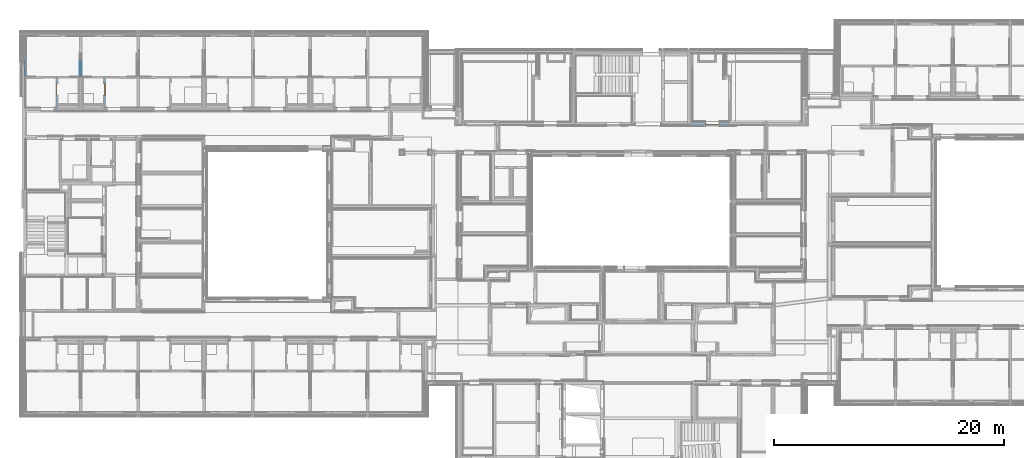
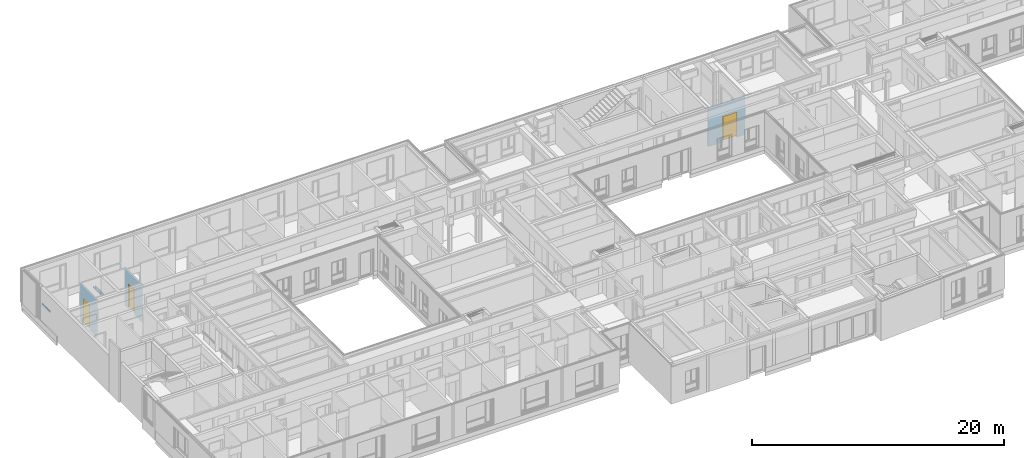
# One storey, part 109 of 207: 3 doors, 3 walls, 3 openings, plus 3 elements that do not belong to this part.
"""IFC4 building model written with IfcOpenShell, lengths in metres."""

from ifc_helpers import new_model, entity, si_unit, converted_unit, derived_unit, frame, frame_2d, origin, origin_with_axes, place, context, subcontext, project, spatial, polyline, rectangle, outline, extrude, clip, bounded_halfspace, faceted_brep, source, transform, mapped, material, type_object, element, fill, save


model = new_model("IFC4")

# Units and contexts
model_context = context("Model", 3, precision=1e-05, world=origin())
body_context = subcontext(model_context, "Body", "Model", "MODEL_VIEW")
ifc_project = project(units=[si_unit("LENGTHUNIT", "METRE"), si_unit("AREAUNIT", "SQUARE_METRE"), si_unit("VOLUMEUNIT", "CUBIC_METRE"), si_unit("MASSUNIT", "GRAM", prefix="KILO"), converted_unit("PLANEANGLEUNIT", "DEGREE", entity("IfcPlaneAngleMeasure", 0.0174532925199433), si_unit("PLANEANGLEUNIT", "RADIAN"), dimensions=[0, 0, 0, 0, 0, 0, 0]), derived_unit("THERMALTRANSMITTANCEUNIT", [(si_unit("POWERUNIT", "WATT"), 1), (si_unit("THERMODYNAMICTEMPERATUREUNIT", "KELVIN"), -1), (si_unit("LENGTHUNIT", "METRE"), -2)]), derived_unit("VOLUMETRICFLOWRATEUNIT", [(si_unit("LENGTHUNIT", "METRE"), 3), (converted_unit("TIMEUNIT", "hour", entity("IfcTimeMeasure", 3600.0), si_unit("TIMEUNIT", "SECOND"), dimensions=[0, 0, 1, 0, 0, 0, 0]), -1), (si_unit("LENGTHUNIT", "METRE"), -1)])], contexts=[model_context])

# Site, building, storey
site_placement = place(None, origin())
site = spatial("IfcSite", under=ifc_project, at=site_placement, Name="Psychiatrie Neubau Wunstorf", CompositionType="ELEMENT")
building_placement = place(site_placement, origin())
building = spatial("IfcBuilding", under=site, at=building_placement, Name="Neubau H2 Stationsgebäude", CompositionType="ELEMENT")
storey_placement = place(building_placement, frame((0.0, 0.0, -0.2)))
storey = spatial("IfcBuildingStorey", under=building, at=storey_placement, Name="H2 Ebene 0", CompositionType="ELEMENT", Elevation=-0.2)

# Wall
wall_1_placement = place(storey_placement, frame((0.218999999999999, 27.1628367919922, 1.625)))
element("IfcWall", 1, at=wall_1_placement, inside=storey, Name="WV 1.1", context=body_context, shape_type="Brep", body=[
    faceted_brep([(0.025, 1.2, 0.0), (0.0, 1.2, 0.0), (0.0, 0.0, 0.0), (0.0250000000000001, 0.0, 0.0), (0.0, 1.2, 0.15), (0.025, 1.2, 0.15), (0.0250000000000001, 0.0, 0.15), (0.0, 0.0, 0.15)], [[[0, 1, 2, 3]], [[4, 5, 6, 7]], [[1, 0, 5, 4]], [[2, 1, 4, 7]], [[3, 2, 7, 6]], [[0, 3, 6, 5]]], orient=[[False], [False], [False], [False], [False], [False]]),
])

# Wall, opening, door
ifc_material_1 = material(Name="WI-LB")
wall_2_placement = place(storey_placement, frame((2.875, 26.9645, 0.0), z_axis=(0.0, 0.0, 1.0), x_axis=(0.0, -1.0, 0.0)))
wall_2 = element("IfcWall", 2, at=wall_2_placement, inside=storey, material=ifc_material_1, context=body_context, shape_type="SweptSolid", body=[
    extrude(rectangle(XDim=2.61499999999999, YDim=0.125, at=frame_2d((1.3075, 0.0625), x_axis=(1.0, 0.0))), origin_with_axes(), (0.0, 0.0, 1.0), 3.6),
])
opening_1_placement = place(wall_2_placement, frame((1.51, 0.125, 0.0), z_axis=(0.0, -1.0, 0.0), x_axis=(0.0, 0.0, 1.0)))
opening_1 = element("IfcOpeningElement", 3, at=opening_1_placement, cuts=wall_2, Name="Türöffnung", ObjectType="Opening", context=body_context, shape_type="SweptSolid", body=[
    extrude(outline(polyline([(2.46, 1.01), (2.46, 0.0), (0.0, 0.0), (0.0, 1.01), (2.46, 1.01)])), origin_with_axes(), (0.0, 0.0, 1.0), 0.125),
])
ifc_material_2 = material(Name="TI-1F-UZ-D-N")
door_type_1 = type_object("IfcDoorType", Name="SMT", OperationType="SINGLE_SWING_RIGHT", ParameterTakesPrecedence=False, PredefinedType="DOOR")
shared_shape_1 = source(origin_with_axes(), body_context, "Body", "Brep", [
    faceted_brep([(1.04999999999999, 0.0125000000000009, 0.0), (1.04999999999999, 0.112500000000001, 0.0), (1.00999999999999, 0.112500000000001, 0.0), (1.00999999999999, 0.0125000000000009, 0.0), (1.04999999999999, 0.112500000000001, 3.6), (1.04999999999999, 0.0125000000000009, 3.6), (1.00999999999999, 0.0125000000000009, 3.6), (1.00999999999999, 0.112500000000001, 3.6)], [[[0, 1, 2, 3]], [[4, 5, 6, 7]], [[1, 0, 5, 4]], [[2, 1, 4, 7]], [[3, 2, 7, 6]], [[0, 3, 6, 5]]], orient=[[False], [False], [False], [False], [False], [False]]),
    faceted_brep([(0.0, 0.0125000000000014, 0.0), (0.0, 0.112500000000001, 0.0), (-0.0400000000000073, 0.112500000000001, 0.0), (-0.0400000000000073, 0.0125000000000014, 0.0), (0.0, 0.112500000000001, 3.6), (0.0, 0.0125000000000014, 3.6), (-0.0400000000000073, 0.0125000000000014, 3.6), (-0.0400000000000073, 0.112500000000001, 3.6)], [[[0, 1, 2, 3]], [[4, 5, 6, 7]], [[1, 0, 5, 4]], [[2, 1, 4, 7]], [[3, 2, 7, 6]], [[0, 3, 6, 5]]], orient=[[False], [False], [False], [False], [False], [False]]),
    faceted_brep([(1.00999999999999, 0.0125000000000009, 2.46), (1.00999999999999, 0.112500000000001, 2.46), (0.0, 0.112500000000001, 2.46), (0.0, 0.0125000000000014, 2.46), (1.00999999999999, 0.112500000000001, 2.5), (1.00999999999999, 0.0125000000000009, 2.5), (0.0, 0.0125000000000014, 2.5), (0.0, 0.112500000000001, 2.5)], [[[0, 1, 2, 3]], [[4, 5, 6, 7]], [[1, 0, 5, 4]], [[2, 1, 4, 7]], [[3, 2, 7, 6]], [[0, 3, 6, 5]]], orient=[[False], [False], [False], [False], [False], [False]]),
])
shared_shape_2 = source(origin_with_axes(), body_context, "Body", "Brep", [
    faceted_brep([(0.0, -0.0149999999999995, 2.46), (0.0399999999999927, -0.0149999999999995, 2.46), (0.0399999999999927, -0.0149999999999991, 0.2), (0.0, -0.0149999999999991, 0.2), (0.0, 0.140000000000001, 0.2), (0.0399999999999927, 0.140000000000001, 0.2), (0.0399999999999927, 0.14, 2.46), (0.0, 0.14, 2.46)], [[[0, 1, 2, 3]], [[4, 5, 6, 7]], [[3, 4, 7, 0]], [[2, 5, 4, 3]], [[1, 6, 5, 2]], [[0, 7, 6, 1]]], orient=[[False], [False], [False], [False], [False], [False]]),
    faceted_brep([(0.0, -0.0149999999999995, 2.475), (0.0, -0.0149999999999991, 0.2), (-0.0150000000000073, -0.0149999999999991, 0.2), (-0.0150000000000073, -0.0149999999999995, 2.475), (0.0, 0.0, 0.2), (0.0, 0.0, 2.475), (-0.0150000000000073, 0.0, 2.475), (-0.0150000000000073, 0.0, 0.2)], [[[0, 1, 2, 3]], [[4, 5, 6, 7]], [[1, 0, 5, 4]], [[2, 1, 4, 7]], [[3, 2, 7, 6]], [[0, 3, 6, 5]]], orient=[[False], [False], [False], [False], [False], [False]]),
    faceted_brep([(0.0, 0.125, 2.475), (0.0, 0.125000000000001, 0.2), (-0.0150000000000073, 0.125000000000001, 0.2), (-0.0150000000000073, 0.125, 2.475), (0.0, 0.140000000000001, 0.2), (0.0, 0.14, 2.475), (-0.0150000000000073, 0.14, 2.475), (-0.0150000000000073, 0.140000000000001, 0.2)], [[[0, 1, 2, 3]], [[4, 5, 6, 7]], [[1, 0, 5, 4]], [[2, 1, 4, 7]], [[3, 2, 7, 6]], [[0, 3, 6, 5]]], orient=[[False], [False], [False], [False], [False], [False]]),
    faceted_brep([(0.969999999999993, -0.0149999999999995, 2.46), (1.00999999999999, -0.0149999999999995, 2.46), (1.00999999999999, -0.0149999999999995, 0.2), (0.969999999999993, -0.0149999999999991, 0.2), (0.969999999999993, 0.14, 0.2), (1.00999999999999, 0.14, 0.2), (1.00999999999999, 0.14, 2.46), (0.969999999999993, 0.14, 2.46)], [[[0, 1, 2, 3]], [[4, 5, 6, 7]], [[3, 4, 7, 0]], [[2, 5, 4, 3]], [[1, 6, 5, 2]], [[0, 7, 6, 1]]], orient=[[False], [False], [False], [False], [False], [False]]),
    faceted_brep([(1.00999999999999, -0.0149999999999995, 2.475), (1.02499999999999, -0.0149999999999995, 2.475), (1.02499999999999, -0.0149999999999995, 0.2), (1.00999999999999, -0.0149999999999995, 0.2), (1.00999999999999, 0.0, 0.2), (1.02499999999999, 0.0, 0.2), (1.02499999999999, 0.0, 2.475), (1.00999999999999, 0.0, 2.475)], [[[0, 1, 2, 3]], [[4, 5, 6, 7]], [[3, 4, 7, 0]], [[2, 5, 4, 3]], [[1, 6, 5, 2]], [[0, 7, 6, 1]]], orient=[[False], [False], [False], [False], [False], [False]]),
    faceted_brep([(1.00999999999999, 0.125, 2.475), (1.02499999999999, 0.125, 2.475), (1.02499999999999, 0.125, 0.2), (1.00999999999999, 0.125, 0.2), (1.00999999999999, 0.14, 0.2), (1.02499999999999, 0.14, 0.2), (1.02499999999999, 0.14, 2.475), (1.00999999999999, 0.14, 2.475)], [[[0, 1, 2, 3]], [[4, 5, 6, 7]], [[3, 4, 7, 0]], [[2, 5, 4, 3]], [[1, 6, 5, 2]], [[0, 7, 6, 1]]], orient=[[False], [False], [False], [False], [False], [False]]),
    faceted_brep([(0.0399999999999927, -0.0149999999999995, 2.46), (0.969999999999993, -0.0149999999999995, 2.46), (0.969999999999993, -0.0149999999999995, 2.42), (0.0399999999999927, -0.0149999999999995, 2.42), (0.0399999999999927, 0.14, 2.42), (0.969999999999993, 0.14, 2.42), (0.969999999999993, 0.14, 2.46), (0.0399999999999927, 0.14, 2.46)], [[[0, 1, 2, 3]], [[4, 5, 6, 7]], [[3, 4, 7, 0]], [[2, 5, 4, 3]], [[1, 6, 5, 2]], [[0, 7, 6, 1]]], orient=[[False], [False], [False], [False], [False], [False]]),
    faceted_brep([(0.0, -0.0149999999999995, 2.475), (1.00999999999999, -0.0149999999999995, 2.475), (1.00999999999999, -0.0149999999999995, 2.46), (0.0, -0.0149999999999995, 2.46), (0.0, 0.0, 2.46), (1.00999999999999, 0.0, 2.46), (1.00999999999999, 0.0, 2.475), (0.0, 0.0, 2.475)], [[[0, 1, 2, 3]], [[4, 5, 6, 7]], [[3, 4, 7, 0]], [[2, 5, 4, 3]], [[1, 6, 5, 2]], [[0, 7, 6, 1]]], orient=[[False], [False], [False], [False], [False], [False]]),
    faceted_brep([(0.0, 0.125, 2.475), (1.00999999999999, 0.125, 2.475), (1.00999999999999, 0.125, 2.46), (0.0, 0.125, 2.46), (0.0, 0.14, 2.46), (1.00999999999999, 0.14, 2.46), (1.00999999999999, 0.14, 2.475), (0.0, 0.14, 2.475)], [[[0, 1, 2, 3]], [[4, 5, 6, 7]], [[3, 4, 7, 0]], [[2, 5, 4, 3]], [[1, 6, 5, 2]], [[0, 7, 6, 1]]], orient=[[False], [False], [False], [False], [False], [False]]),
    faceted_brep([(0.0249999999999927, 0.0910000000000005, 2.435), (0.984999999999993, 0.0910000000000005, 2.435), (0.984999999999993, 0.0910000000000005, 0.2), (0.0249999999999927, 0.0910000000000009, 0.2), (0.0249999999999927, 0.141000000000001, 0.2), (0.984999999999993, 0.141, 0.2), (0.984999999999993, 0.141, 2.435), (0.0249999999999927, 0.141, 2.435)], [[[0, 1, 2, 3]], [[4, 5, 6, 7]], [[3, 4, 7, 0]], [[2, 5, 4, 3]], [[1, 6, 5, 2]], [[0, 7, 6, 1]]], orient=[[False], [False], [False], [False], [False], [False]]),
])
door_1_placement = place(opening_1_placement, frame((0.0, 0.0, 0.0), z_axis=(1.0, 0.0, 0.0), x_axis=(0.0, 1.0, 0.0)))
door_1 = element("IfcDoor", 4, at=door_1_placement, inside=storey, type_object=door_type_1, material=ifc_material_2, Name="SMT", OverallHeight=2.46, OverallWidth=1.01, context=body_context, shape_type="MappedRepresentation", body=[
    mapped(shared_shape_1, transform((0.0, 0.0, 0.0), x_axis=(1.0, 0.0, 0.0), y_axis=(0.0, 1.0, 0.0), z_axis=(0.0, 0.0, 1.0), scale=1.0)),
    mapped(shared_shape_2, transform((0.0, 0.0, 0.0), x_axis=(1.0, 0.0, 0.0), y_axis=(0.0, 1.0, 0.0), z_axis=(0.0, 0.0, 1.0), scale=1.0)),
])
fill(opening_1, door_1)

ifc_material_3 = material(Name="WI-LB")
wall_3_placement = place(storey_placement, frame((7.0, 27.0895, 0.0), z_axis=(0.0, 0.0, 1.0), x_axis=(0.0, -1.0, 0.0)))
wall_3 = element("IfcWall", 5, at=wall_3_placement, inside=storey, material=ifc_material_3, context=body_context, shape_type="SweptSolid", body=[
    extrude(rectangle(XDim=2.73999999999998, YDim=0.125, at=frame_2d((1.36999999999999, 0.0625), x_axis=(1.0, 0.0))), origin_with_axes(), (0.0, 0.0, 1.0), 3.6),
])
opening_2_placement = place(wall_3_placement, frame((0.625, 0.0, 0.0), z_axis=(0.0, 1.0, 0.0), x_axis=(0.0, 0.0, 1.0)))
opening_2 = element("IfcOpeningElement", 6, at=opening_2_placement, cuts=wall_3, Name="Türöffnung", ObjectType="Opening", context=body_context, shape_type="SweptSolid", body=[
    extrude(outline(polyline([(2.46, 1.01), (2.46, 0.0), (0.0, 0.0), (0.0, 1.01), (2.46, 1.01)])), origin_with_axes(), (0.0, 0.0, 1.0), 0.125),
])
ifc_material_4 = material(Name="TI-1F-UZ-D-N")
door_type_2 = type_object("IfcDoorType", Name="SMT", OperationType="SINGLE_SWING_RIGHT", ParameterTakesPrecedence=False, PredefinedType="DOOR")
shared_shape_3 = source(origin_with_axes(), body_context, "Body", "Brep", [
    faceted_brep([(1.05000000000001, 0.0124999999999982, 0.0), (1.05000000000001, 0.112499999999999, 0.0), (1.01000000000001, 0.112499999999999, 0.0), (1.01000000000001, 0.0124999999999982, 0.0), (1.05000000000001, 0.112499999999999, 3.6), (1.05000000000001, 0.0124999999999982, 3.6), (1.01000000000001, 0.0124999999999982, 3.6), (1.01000000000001, 0.112499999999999, 3.6)], [[[0, 1, 2, 3]], [[4, 5, 6, 7]], [[1, 0, 5, 4]], [[2, 1, 4, 7]], [[3, 2, 7, 6]], [[0, 3, 6, 5]]], orient=[[False], [False], [False], [False], [False], [False]]),
    faceted_brep([(0.0, 0.0124999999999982, 0.0), (0.0, 0.112499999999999, 0.0), (-0.0399999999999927, 0.112499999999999, 0.0), (-0.0399999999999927, 0.0124999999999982, 0.0), (0.0, 0.112499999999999, 3.6), (0.0, 0.0124999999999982, 3.6), (-0.0399999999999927, 0.0124999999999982, 3.6), (-0.0399999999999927, 0.112499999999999, 3.6)], [[[0, 1, 2, 3]], [[4, 5, 6, 7]], [[1, 0, 5, 4]], [[2, 1, 4, 7]], [[3, 2, 7, 6]], [[0, 3, 6, 5]]], orient=[[False], [False], [False], [False], [False], [False]]),
    faceted_brep([(1.01000000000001, 0.0124999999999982, 2.46), (1.01000000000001, 0.112499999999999, 2.46), (0.0, 0.112499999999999, 2.46), (0.0, 0.0124999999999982, 2.46), (1.01000000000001, 0.112499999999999, 2.5), (1.01000000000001, 0.0124999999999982, 2.5), (0.0, 0.0124999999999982, 2.5), (0.0, 0.112499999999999, 2.5)], [[[0, 1, 2, 3]], [[4, 5, 6, 7]], [[1, 0, 5, 4]], [[2, 1, 4, 7]], [[3, 2, 7, 6]], [[0, 3, 6, 5]]], orient=[[False], [False], [False], [False], [False], [False]]),
])
shared_shape_4 = source(origin_with_axes(), body_context, "Body", "Brep", [
    faceted_brep([(1.01000000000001, -0.0150000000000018, 2.46), (1.01000000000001, -0.0150000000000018, 0.2), (0.970000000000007, -0.0150000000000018, 0.2), (0.970000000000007, -0.0150000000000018, 2.46), (1.01000000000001, 0.139999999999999, 0.2), (1.01000000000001, 0.139999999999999, 2.46), (0.970000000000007, 0.139999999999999, 2.46), (0.970000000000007, 0.139999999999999, 0.2)], [[[0, 1, 2, 3]], [[4, 5, 6, 7]], [[1, 0, 5, 4]], [[2, 1, 4, 7]], [[3, 2, 7, 6]], [[0, 3, 6, 5]]], orient=[[False], [False], [False], [False], [False], [False]]),
    faceted_brep([(1.01000000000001, -0.0150000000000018, 2.475), (1.02500000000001, -0.0150000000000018, 2.475), (1.02500000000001, -0.0150000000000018, 0.2), (1.01000000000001, -0.0150000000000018, 0.2), (1.01000000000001, 0.0, 0.2), (1.02500000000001, 0.0, 0.2), (1.02500000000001, 0.0, 2.475), (1.01000000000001, 0.0, 2.475)], [[[0, 1, 2, 3]], [[4, 5, 6, 7]], [[3, 4, 7, 0]], [[2, 5, 4, 3]], [[1, 6, 5, 2]], [[0, 7, 6, 1]]], orient=[[False], [False], [False], [False], [False], [False]]),
    faceted_brep([(1.01000000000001, 0.124999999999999, 2.475), (1.02500000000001, 0.124999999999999, 2.475), (1.02500000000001, 0.124999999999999, 0.2), (1.01000000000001, 0.124999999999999, 0.2), (1.01000000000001, 0.139999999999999, 0.2), (1.02500000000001, 0.139999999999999, 0.2), (1.02500000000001, 0.139999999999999, 2.475), (1.01000000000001, 0.139999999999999, 2.475)], [[[0, 1, 2, 3]], [[4, 5, 6, 7]], [[3, 4, 7, 0]], [[2, 5, 4, 3]], [[1, 6, 5, 2]], [[0, 7, 6, 1]]], orient=[[False], [False], [False], [False], [False], [False]]),
    faceted_brep([(0.0400000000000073, -0.0150000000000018, 2.46), (0.0400000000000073, -0.0150000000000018, 0.2), (0.0, -0.0150000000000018, 0.2), (0.0, -0.0150000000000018, 2.46), (0.0400000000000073, 0.139999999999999, 0.2), (0.0400000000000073, 0.139999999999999, 2.46), (0.0, 0.139999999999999, 2.46), (0.0, 0.139999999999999, 0.2)], [[[0, 1, 2, 3]], [[4, 5, 6, 7]], [[1, 0, 5, 4]], [[2, 1, 4, 7]], [[3, 2, 7, 6]], [[0, 3, 6, 5]]], orient=[[False], [False], [False], [False], [False], [False]]),
    faceted_brep([(0.0, -0.0150000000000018, 2.475), (0.0, -0.0150000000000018, 0.2), (-0.0149999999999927, -0.0150000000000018, 0.2), (-0.0149999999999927, -0.0150000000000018, 2.475), (0.0, 0.0, 0.2), (0.0, 0.0, 2.475), (-0.0149999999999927, 0.0, 2.475), (-0.0149999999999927, 0.0, 0.2)], [[[0, 1, 2, 3]], [[4, 5, 6, 7]], [[1, 0, 5, 4]], [[2, 1, 4, 7]], [[3, 2, 7, 6]], [[0, 3, 6, 5]]], orient=[[False], [False], [False], [False], [False], [False]]),
    faceted_brep([(0.0, 0.124999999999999, 2.475), (0.0, 0.124999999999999, 0.2), (-0.0149999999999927, 0.124999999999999, 0.2), (-0.0149999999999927, 0.124999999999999, 2.475), (0.0, 0.139999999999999, 0.2), (0.0, 0.139999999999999, 2.475), (-0.0149999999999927, 0.139999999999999, 2.475), (-0.0149999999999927, 0.139999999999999, 0.2)], [[[0, 1, 2, 3]], [[4, 5, 6, 7]], [[1, 0, 5, 4]], [[2, 1, 4, 7]], [[3, 2, 7, 6]], [[0, 3, 6, 5]]], orient=[[False], [False], [False], [False], [False], [False]]),
    faceted_brep([(0.970000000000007, -0.0150000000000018, 2.46), (0.970000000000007, -0.0150000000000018, 2.42), (0.0400000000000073, -0.0150000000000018, 2.42), (0.0400000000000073, -0.0150000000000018, 2.46), (0.970000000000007, 0.139999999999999, 2.42), (0.970000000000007, 0.139999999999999, 2.46), (0.0400000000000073, 0.139999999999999, 2.46), (0.0400000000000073, 0.139999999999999, 2.42)], [[[0, 1, 2, 3]], [[4, 5, 6, 7]], [[1, 0, 5, 4]], [[2, 1, 4, 7]], [[3, 2, 7, 6]], [[0, 3, 6, 5]]], orient=[[False], [False], [False], [False], [False], [False]]),
    faceted_brep([(1.01000000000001, -0.0150000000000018, 2.475), (1.01000000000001, -0.0150000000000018, 2.46), (0.0, -0.0150000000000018, 2.46), (0.0, -0.0150000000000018, 2.475), (1.01000000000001, 0.0, 2.46), (1.01000000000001, 0.0, 2.475), (0.0, 0.0, 2.475), (0.0, 0.0, 2.46)], [[[0, 1, 2, 3]], [[4, 5, 6, 7]], [[1, 0, 5, 4]], [[2, 1, 4, 7]], [[3, 2, 7, 6]], [[0, 3, 6, 5]]], orient=[[False], [False], [False], [False], [False], [False]]),
    faceted_brep([(1.01000000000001, 0.124999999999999, 2.475), (1.01000000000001, 0.124999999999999, 2.46), (0.0, 0.124999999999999, 2.46), (0.0, 0.124999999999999, 2.475), (1.01000000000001, 0.139999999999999, 2.46), (1.01000000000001, 0.139999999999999, 2.475), (0.0, 0.139999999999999, 2.475), (0.0, 0.139999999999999, 2.46)], [[[0, 1, 2, 3]], [[4, 5, 6, 7]], [[1, 0, 5, 4]], [[2, 1, 4, 7]], [[3, 2, 7, 6]], [[0, 3, 6, 5]]], orient=[[False], [False], [False], [False], [False], [False]]),
    faceted_brep([(0.985000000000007, 0.0909999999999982, 2.435), (0.985000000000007, 0.0909999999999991, 0.2), (0.0250000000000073, 0.0909999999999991, 0.2), (0.0250000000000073, 0.0909999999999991, 2.435), (0.985000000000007, 0.140999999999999, 0.2), (0.985000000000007, 0.140999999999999, 2.435), (0.0250000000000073, 0.140999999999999, 2.435), (0.0250000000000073, 0.140999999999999, 0.2)], [[[0, 1, 2, 3]], [[4, 5, 6, 7]], [[1, 0, 5, 4]], [[2, 1, 4, 7]], [[3, 2, 7, 6]], [[0, 3, 6, 5]]], orient=[[False], [False], [False], [False], [False], [False]]),
])
door_2_placement = place(opening_2_placement, frame((0.0, 0.0, 0.0), z_axis=(1.0, 0.0, 0.0), x_axis=(0.0, 1.0, 0.0)))
door_2 = element("IfcDoor", 7, at=door_2_placement, inside=storey, type_object=door_type_2, material=ifc_material_4, Name="SMT", OverallHeight=2.46, OverallWidth=1.01, context=body_context, shape_type="MappedRepresentation", body=[
    mapped(shared_shape_3, transform((0.0, 0.0, 0.0), x_axis=(1.0, 0.0, 0.0), y_axis=(0.0, 1.0, 0.0), z_axis=(0.0, 0.0, 1.0), scale=1.0)),
    mapped(shared_shape_4, transform((0.0, 0.0, 0.0), x_axis=(1.0, 0.0, 0.0), y_axis=(0.0, 1.0, 0.0), z_axis=(0.0, 0.0, 1.0), scale=1.0)),
])
fill(opening_2, door_2)

# Walls
for number, where, name in (
    (8, (4.90000000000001, 27.1628367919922, 1.625), "WV 1.1"),
    (9, (5.07500000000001, 27.1628367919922, 1.625), "WV 1.1"),
):
    element("IfcWall", number, at=place(storey_placement, frame(where)), inside=storey, Name=name, context=body_context, shape_type="Brep", body=[
        faceted_brep([(0.025, 1.2, 0.0), (0.0, 1.2, 0.0), (0.0, 0.0, 0.0), (0.025, 0.0, 0.0), (0.0, 1.2, 0.15), (0.025, 1.2, 0.15), (0.025, 0.0, 0.15), (0.0, 0.0, 0.15)], [[[0, 1, 2, 3]], [[4, 5, 6, 7]], [[1, 0, 5, 4]], [[2, 1, 4, 7]], [[3, 2, 7, 6]], [[0, 3, 6, 5]]], orient=[[False], [False], [False], [False], [False], [False]]),
    ])

# Wall, opening, door
ifc_material_5 = material(Name="WI-HW 60")
wall_4_placement = place(storey_placement, frame((58.1, 22.8649999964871, 0.0)))
wall_4 = element("IfcWall", 10, at=wall_4_placement, inside=storey, material=ifc_material_5, context=body_context, shape_type="Clipping", body=[
    clip(extrude(outline(polyline([(0.0, 0.0), (3.364, 0.0), (3.364, 0.232), (0.225, 0.232), (0.225, 0.231), (0.0, 0.231), (0.0, 0.0)])), origin_with_axes(), (0.0, 0.0, 1.0), 3.6), bounded_halfspace(frame((2.13700000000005, 0.116, 3.56), z_axis=(0.0, 0.0, -1.0), x_axis=(0.0, 1.0, 0.0)), True, origin_with_axes(), polyline([(3.364, 0.0), (3.364, 0.232), (0.910000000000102, 0.232), (0.910000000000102, 0.0), (3.364, 0.0)]))),
])
opening_3_placement = place(wall_4_placement, frame((1.325, 0.0, 0.0), z_axis=(0.0, 1.0, 0.0), x_axis=(0.0, 0.0, 1.0)))
opening_3 = element("IfcOpeningElement", 11, at=opening_3_placement, cuts=wall_4, Name="Türöffnung", ObjectType="Opening", context=body_context, shape_type="SweptSolid", body=[
    extrude(outline(polyline([(2.46, 1.259), (2.46, 0.0), (0.0, 0.0), (0.0, 1.259), (2.46, 1.259)])), origin_with_axes(), (0.0, 0.0, 1.0), 0.232),
])
ifc_material_6 = material(Name="TI-1F-UZ-M-ZK-SF")
door_type_3 = type_object("IfcDoorType", Name="SMT", OperationType="SINGLE_SWING_RIGHT", ParameterTakesPrecedence=False, PredefinedType="DOOR")
shared_shape_5 = source(origin_with_axes(), body_context, "Body", "Brep", [
    faceted_brep([(0.0, -0.015, 2.46), (0.0400000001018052, -0.015, 2.46), (0.0400000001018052, -0.015, 0.2), (0.0, -0.015, 0.2), (0.0, 0.322, 0.2), (0.0400000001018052, 0.322, 0.2), (0.0400000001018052, 0.322, 2.46), (0.0, 0.322, 2.46)], [[[0, 1, 2, 3]], [[4, 5, 6, 7]], [[3, 4, 7, 0]], [[2, 5, 4, 3]], [[1, 6, 5, 2]], [[0, 7, 6, 1]]], orient=[[False], [False], [False], [False], [False], [False]]),
    faceted_brep([(0.0, -0.015, 2.475), (0.0, -0.015, 0.2), (-0.015, -0.015, 0.2), (-0.015, -0.015, 2.475), (0.0, 0.0, 0.2), (0.0, 0.0, 2.475), (-0.015, 0.0, 2.475), (-0.015, 0.0, 0.2)], [[[0, 1, 2, 3]], [[4, 5, 6, 7]], [[1, 0, 5, 4]], [[2, 1, 4, 7]], [[3, 2, 7, 6]], [[0, 3, 6, 5]]], orient=[[False], [False], [False], [False], [False], [False]]),
    faceted_brep([(0.0, 0.307, 2.475), (0.0, 0.307, 0.2), (-0.015, 0.307, 0.2), (-0.015, 0.307, 2.475), (0.0, 0.322, 0.2), (0.0, 0.322, 2.475), (-0.015, 0.322, 2.475), (-0.015, 0.322, 0.2)], [[[0, 1, 2, 3]], [[4, 5, 6, 7]], [[1, 0, 5, 4]], [[2, 1, 4, 7]], [[3, 2, 7, 6]], [[0, 3, 6, 5]]], orient=[[False], [False], [False], [False], [False], [False]]),
    faceted_brep([(1.21899999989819, -0.015, 2.46), (1.25899999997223, -0.015, 2.46), (1.25899999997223, -0.015, 0.2), (1.21899999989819, -0.015, 0.2), (1.21899999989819, 0.322, 0.2), (1.25899999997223, 0.322, 0.2), (1.25899999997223, 0.322, 2.46), (1.21899999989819, 0.322, 2.46)], [[[0, 1, 2, 3]], [[4, 5, 6, 7]], [[3, 4, 7, 0]], [[2, 5, 4, 3]], [[1, 6, 5, 2]], [[0, 7, 6, 1]]], orient=[[False], [False], [False], [False], [False], [False]]),
    faceted_brep([(1.25899999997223, -0.015, 2.475), (1.274, -0.015, 2.475), (1.274, -0.015, 0.2), (1.25899999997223, -0.015, 0.2), (1.25899999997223, 0.0, 0.2), (1.274, 0.0, 0.2), (1.274, 0.0, 2.475), (1.25899999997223, 0.0, 2.475)], [[[0, 1, 2, 3]], [[4, 5, 6, 7]], [[3, 4, 7, 0]], [[2, 5, 4, 3]], [[1, 6, 5, 2]], [[0, 7, 6, 1]]], orient=[[False], [False], [False], [False], [False], [False]]),
    faceted_brep([(1.25899999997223, 0.307, 2.475), (1.274, 0.307, 2.475), (1.274, 0.307, 0.2), (1.25899999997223, 0.307, 0.2), (1.25899999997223, 0.322, 0.2), (1.274, 0.322, 0.2), (1.274, 0.322, 2.475), (1.25899999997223, 0.322, 2.475)], [[[0, 1, 2, 3]], [[4, 5, 6, 7]], [[3, 4, 7, 0]], [[2, 5, 4, 3]], [[1, 6, 5, 2]], [[0, 7, 6, 1]]], orient=[[False], [False], [False], [False], [False], [False]]),
    faceted_brep([(0.0400000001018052, -0.015, 2.46), (1.21899999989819, -0.015, 2.46), (1.21899999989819, -0.015, 2.42), (0.0400000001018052, -0.015, 2.42), (0.0400000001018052, 0.322, 2.42), (1.21899999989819, 0.322, 2.42), (1.21899999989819, 0.322, 2.46), (0.0400000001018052, 0.322, 2.46)], [[[0, 1, 2, 3]], [[4, 5, 6, 7]], [[3, 4, 7, 0]], [[2, 5, 4, 3]], [[1, 6, 5, 2]], [[0, 7, 6, 1]]], orient=[[False], [False], [False], [False], [False], [False]]),
    faceted_brep([(0.0, -0.015, 2.475), (1.25899999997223, -0.015, 2.475), (1.25899999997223, -0.015, 2.46), (0.0, -0.015, 2.46), (0.0, 0.0, 2.46), (1.25899999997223, 0.0, 2.46), (1.25899999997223, 0.0, 2.475), (0.0, 0.0, 2.475)], [[[0, 1, 2, 3]], [[4, 5, 6, 7]], [[3, 4, 7, 0]], [[2, 5, 4, 3]], [[1, 6, 5, 2]], [[0, 7, 6, 1]]], orient=[[False], [False], [False], [False], [False], [False]]),
    faceted_brep([(0.0, 0.307, 2.475), (1.25899999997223, 0.307, 2.475), (1.25899999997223, 0.307, 2.46), (0.0, 0.307, 2.46), (0.0, 0.322, 2.46), (1.25899999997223, 0.322, 2.46), (1.25899999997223, 0.322, 2.475), (0.0, 0.322, 2.475)], [[[0, 1, 2, 3]], [[4, 5, 6, 7]], [[3, 4, 7, 0]], [[2, 5, 4, 3]], [[1, 6, 5, 2]], [[0, 7, 6, 1]]], orient=[[False], [False], [False], [False], [False], [False]]),
    faceted_brep([(0.0250000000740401, 0.273, 2.435), (1.23399999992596, 0.273, 2.435), (1.23399999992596, 0.273, 0.2), (0.0250000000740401, 0.273, 0.2), (0.0250000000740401, 0.323, 0.2), (1.23399999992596, 0.323, 0.2), (1.23399999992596, 0.323, 2.435), (0.0250000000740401, 0.323, 2.435)], [[[0, 1, 2, 3]], [[4, 5, 6, 7]], [[3, 4, 7, 0]], [[2, 5, 4, 3]], [[1, 6, 5, 2]], [[0, 7, 6, 1]]], orient=[[False], [False], [False], [False], [False], [False]]),
])
door_3_placement = place(opening_3_placement, frame((0.0, 1.259, 0.307), z_axis=(1.0, 0.0, 0.0), x_axis=(0.0, -1.0, 0.0)))
door_3 = element("IfcDoor", 12, at=door_3_placement, inside=storey, type_object=door_type_3, material=ifc_material_6, Name="SMT", OverallHeight=2.46, OverallWidth=1.259, context=body_context, shape_type="MappedRepresentation", body=[
    mapped(shared_shape_5, transform((0.0, 0.0, 0.0), x_axis=(1.0, 0.0, 0.0), y_axis=(0.0, 1.0, 0.0), z_axis=(0.0, 0.0, 1.0), scale=1.0)),
])
fill(opening_3, door_3)

save(model, "model.ifc")
